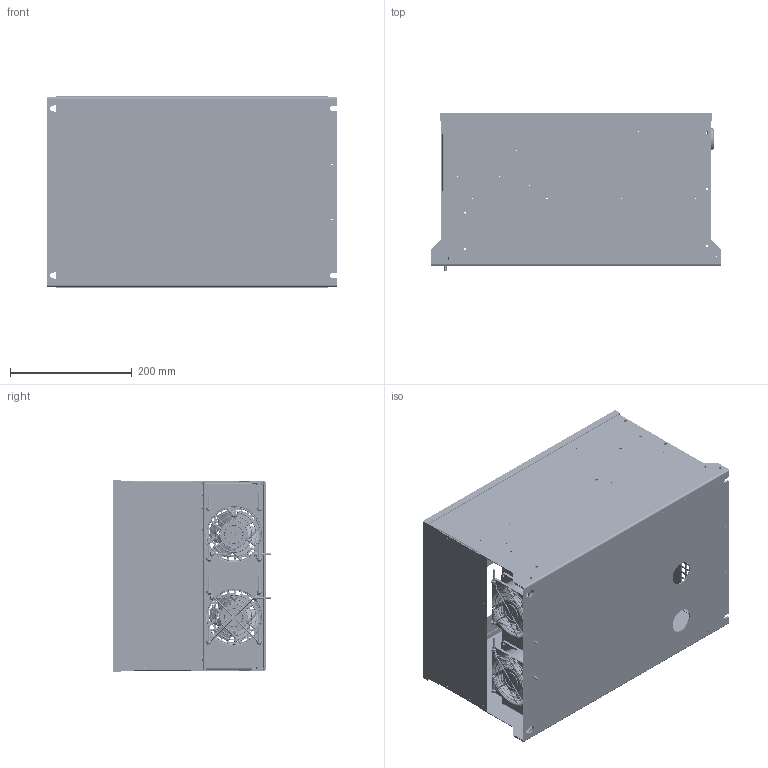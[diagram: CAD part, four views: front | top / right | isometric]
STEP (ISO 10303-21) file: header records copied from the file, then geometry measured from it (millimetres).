
FILE_DESCRIPTION((''),'2;1');
FILE_NAME('C4A_ASM','2024-05-28T',('Lenovo'),(''),'CREO PARAMETRIC BY PTC INC, 2016130','CREO PARAMETRIC BY PTC INC, 2016130','');
FILE_SCHEMA(('AUTOMOTIVE_DESIGN { 1 0 10303 214 1 1 1 1 }'));
Products named in the file (114): C4N00-X305_ASM_30; MZJ-S-M4-ZC_131_9; AA-01__10_1; AA-01__10_2; AA-01__10_ASM; C4AT00-X301_ASM_160_ASM; C4TL00-X301-G01_29_1_6; C4TL00-X301-G01_29_2_6; C4TL00-X301-G01_29_48_6; C4TL00-X301-G01_29_ASM_6_ASM; AA-01__24_1_6; AA-01__24_2_6; AA-01__24_ASM_6_ASM; MAODING_19_6; C4TL00-X301-G01_ASM_17_ASM_6_ASM; C4AT00-X301-G01_ASM_6_ASM; C4H08-X307_14_1_15; C4H08-X307_14_3_14; 0-MZJ-BSO-M4-10-ZC_13; C4H08-X307-G01_ASM_29_ASM; C4H08-X308_14_1_14; C4H08-X308_14_2_14; C4H08-X308_ASM_18_ASM; C4AT00-X311_32; C4H03-X310-G01_9; C4T00-X303_35; C4AT00-X305_21; C4AT00-03-00_ASM_224_ASM; JYZ_ASM_14; ASM0001_ASM_101_ASM_225_ASM; 5NW-316-405-S_11; X8020_26; X8013_44; M4X35_1; CONNECT00_15; FAN-92X25_9; FAN-92-COVER_9_1; FAN-92-COVER_9_2; FAN-92-COVER_9_3; FAN-92-COVER_9_4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
Assembly tree (183 placements, depth 8):
  C4A_ASM
    00-C4AT00_ASM_986_ASM
      ASM0001_ASM_101_ASM_225_ASM
        C4AT00-03-00_ASM_224_ASM
          C4N00-X305_ASM_30
          C4AT00-X301_ASM_160_ASM
            MZJ-S-M4-ZC_131_9  x6
            AA-01__10_ASM  x2
              AA-01__10_1
              AA-01__10_2
          C4AT00-X301-G01_ASM_6_ASM
            C4TL00-X301-G01_ASM_17_ASM_6_ASM
              C4TL00-X301-G01_29_ASM_6_ASM
                C4TL00-X301-G01_29_1_6
                C4TL00-X301-G01_29_2_6
                C4TL00-X301-G01_29_48_6
              AA-01__24_ASM_6_ASM  x2
                AA-01__24_1_6
                AA-01__24_2_6
              MAODING_19_6  x36
          C4H08-X307-G01_ASM_29_ASM
            C4H08-X307_14_1_15
            C4H08-X307_14_3_14
            0-MZJ-BSO-M4-10-ZC_13
          C4H08-X308_ASM_18_ASM
            C4H08-X308_14_1_14
            C4H08-X308_14_2_14
          C4AT00-X311_32
          C4H03-X310-G01_9
          C4T00-X303_35
          C4AT00-X305_21
        JYZ_ASM_14
      5NW-316-405-S_11  x4
      X8020_26  x3
      X8013_44
      M4X35_1  x4
      CONNECT00_15
      FAN-92X25-ASSM_ASM_12_ASM  x2
        FAN-92X25_9
        FAN-92-COVER_9_ASM
          FAN-92-COVER_9_1
          FAN-92-COVER_9_2
          FAN-92-COVER_9_3
          FAN-92-COVER_9_4
          FAN-92-COVER_9_5
          FAN-92-COVER_9_6
          FAN-92-COVER_9_7
        M4X35_1
      M5X12_9  x2
      M5X10_11  x7
      C4T00-0707_18
      M4X8_13  x2
      C4T00-X310-G01_ASM_8_ASM
        C4T00-X310-G01_8_ASM
          C4T00-X310-G01_8_1
          C4T00-X310-G01_8_2
          C4T00-X310-G01_8_3
          C4T00-X310-G01_8_4
          C4T00-X310-G01_8_5
          C4T00-X310-G01_8_6
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Bounding box: 476 x 258.25 x 315 mm (x, y, z)
Volume: 1225528.5 mm3; surface area: 1634182.9 mm2
Topology: 176 solids, 176 shells, 5233 faces, 13581 edges, 8672 vertices
Faces by surface type: plane 2687, cylinder 1424, bspline 478, cone 276, torus 262, sphere 46, revolution 32, extrusion 28
Entity records: 129456 total; most frequent: CARTESIAN_POINT 23877, DIRECTION 16734, ORIENTED_EDGE 16146, EDGE_CURVE 8073, AXIS2_PLACEMENT_3D 5786, VERTEX_POINT 5162, VECTOR 5146, LINE 5132
